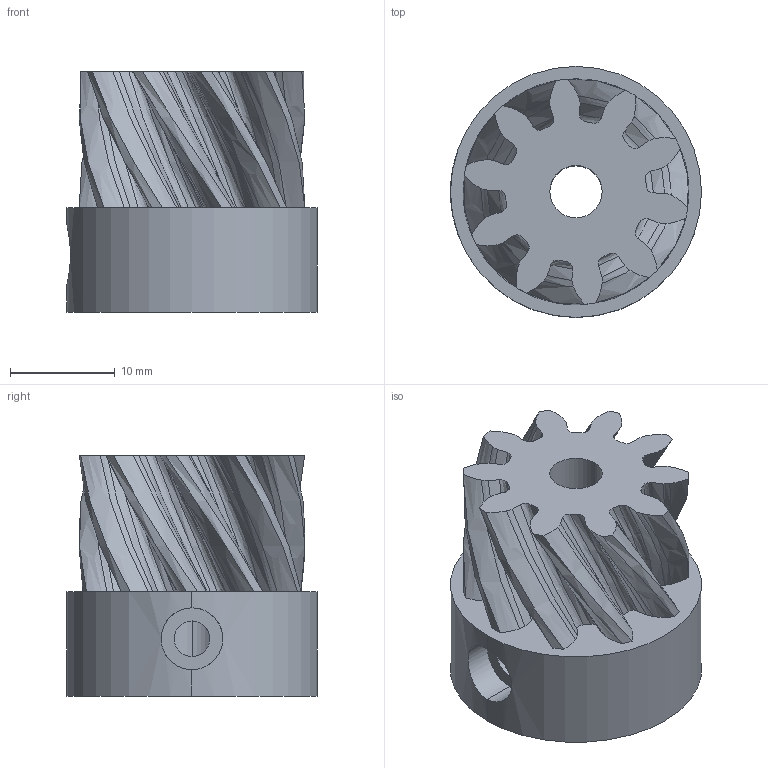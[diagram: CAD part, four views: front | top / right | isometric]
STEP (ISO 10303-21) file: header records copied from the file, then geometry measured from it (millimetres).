
FILE_DESCRIPTION((''),'2;1');
FILE_NAME('ART4MOTORGEAR_01','2022-08-24T09:31:07',('domen.bizjak'),('Audax d.o.o.'),'CREO PARAMETRIC BY PTC INC, 2021184','CREO PARAMETRIC BY PTC INC, 2021184','');
FILE_SCHEMA(('AP242_MANAGED_MODEL_BASED_3D_ENGINEERING_MIM_LF { 1 0 10303 442 1 1 4 }'));
Length unit declared in the file: millimetre
Products named in the file (1): ART4MOTORGEAR_01
Bounding box: 24 x 24 x 23 mm (x, y, z)
Volume: 6988.5 mm3; surface area: 3770.9 mm2
Topology: 1 solids, 1 shells, 120 faces, 353 edges, 239 vertices
Faces by surface type: bspline 100, cylinder 10, plane 10
Entity records: 8229 total; most frequent: CARTESIAN_POINT 4156, ORIENTED_EDGE 700, PRESENTATION_STYLE_ASSIGNMENT 360, STYLED_ITEM 360, CURVE_STYLE 355, EDGE_CURVE 350, COLOUR_RGB 319, B_SPLINE_CURVE_WITH_KNOTS 267
